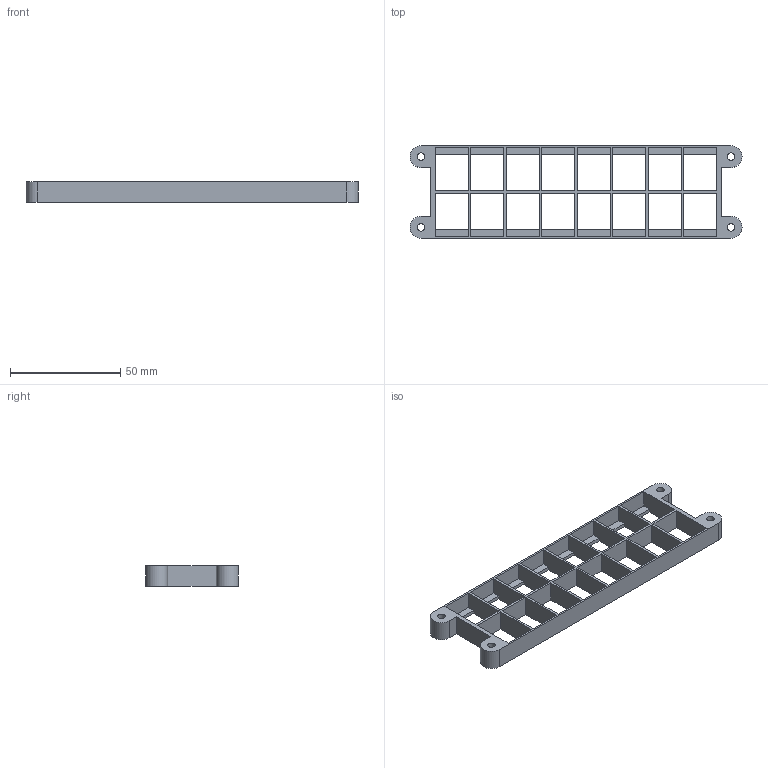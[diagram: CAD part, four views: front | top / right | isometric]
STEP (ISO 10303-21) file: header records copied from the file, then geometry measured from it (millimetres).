
FILE_DESCRIPTION(('Open CASCADE Model'),'2;1');
FILE_NAME('Open CASCADE Shape Model','2026-10-04T00:21:08',('Author'),( 'Open CASCADE'),'Open CASCADE STEP processor 7.8','Open CASCADE 7.8' ,'Unknown');
FILE_SCHEMA(('AUTOMOTIVE_DESIGN { 1 0 10303 214 1 1 1 1 }'));
Length unit declared in the file: millimetre
Products named in the file (1): Open CASCADE STEP translator 7.8 2
Bounding box: 150.7 x 42.1 x 9.5 mm (x, y, z)
Volume: 11584 mm3; surface area: 18652.8 mm2
Topology: 1 solids, 1 shells, 150 faces, 420 edges, 280 vertices
Faces by surface type: plane 138, cylinder 12
Full cylindrical faces by diameter (mm): 3.4 x4, 7.4 x4
Entity records: 10324 total; most frequent: CARTESIAN_POINT 1755, DIRECTION 1572, LINE 1208, VECTOR 1208, ORIENTED_EDGE 840, PCURVE 840, DEFINITIONAL_REPRESENTATION 840, EDGE_CURVE 420
